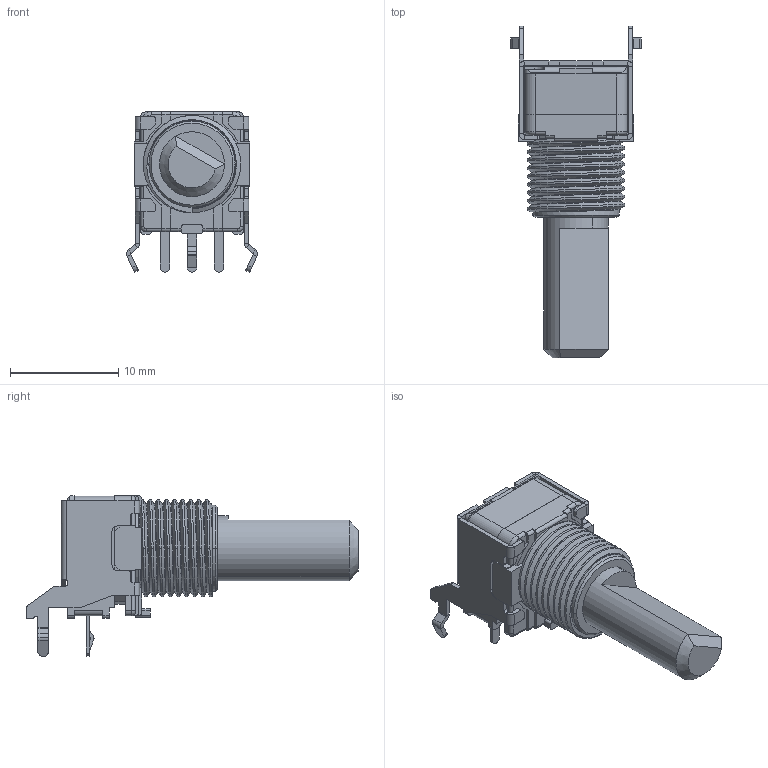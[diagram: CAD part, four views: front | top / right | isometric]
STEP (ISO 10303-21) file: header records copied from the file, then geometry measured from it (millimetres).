
FILE_DESCRIPTION (( 'STEP AP214' ), '1' );
FILE_NAME ('RK09L1120-F20.STEP', '2012-01-19T07:05:20', ( '' ), ( '' ), 'SwSTEP 2.0', 'SolidWorks 2010', '' );
FILE_SCHEMA (( 'AUTOMOTIVE_DESIGN' ));
Length unit declared in the file: millimetre
Products named in the file (1): RK09L1120-F20
Bounding box: 12.1 x 30.7 x 14.85 mm (x, y, z)
Volume: 1479.2 mm3; surface area: 1538 mm2
Topology: 1 solids, 1 shells, 449 faces, 1236 edges, 781 vertices
Faces by surface type: plane 265, cylinder 161, bspline 10, cone 7, torus 6
Entity records: 21215 total; most frequent: CARTESIAN_POINT 5510, ORIENTED_EDGE 2472, DIRECTION 2345, EDGE_CURVE 1236, LINE 817, VECTOR 817, VERTEX_POINT 781, AXIS2_PLACEMENT_3D 764
